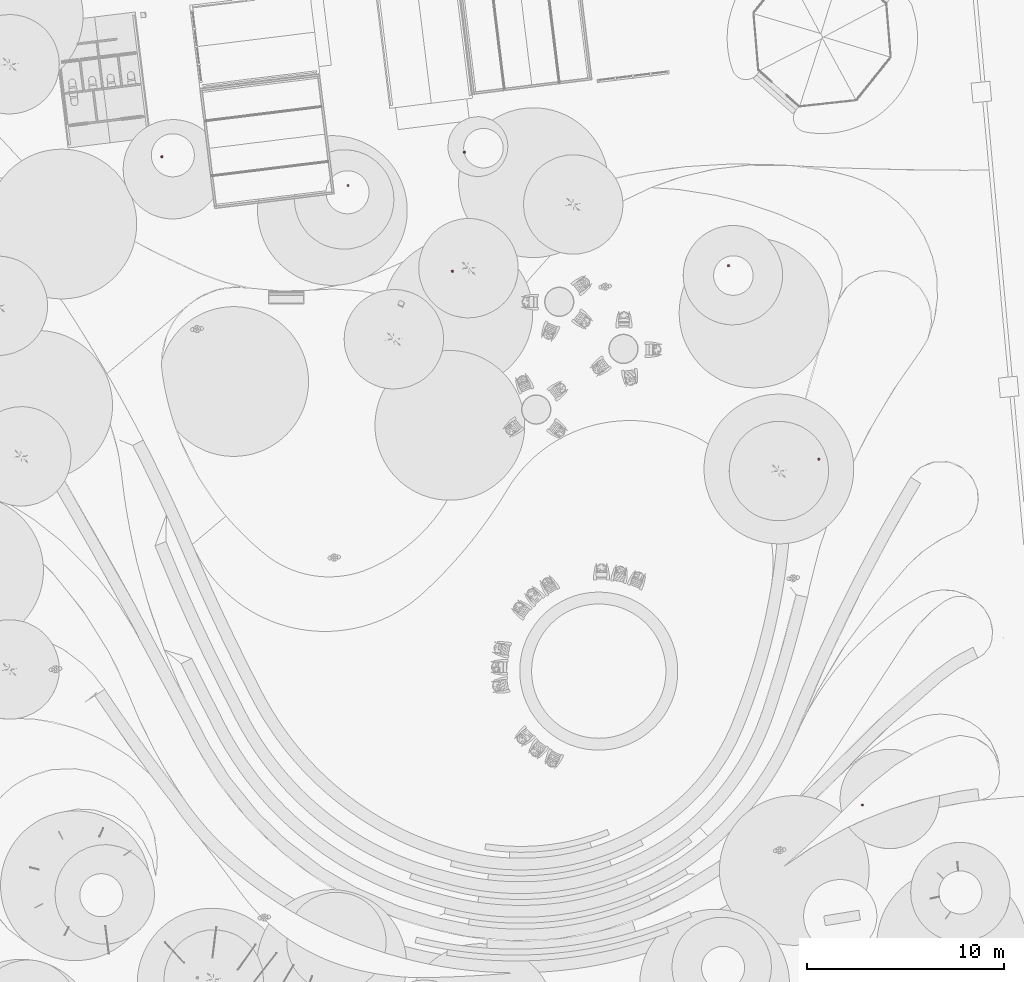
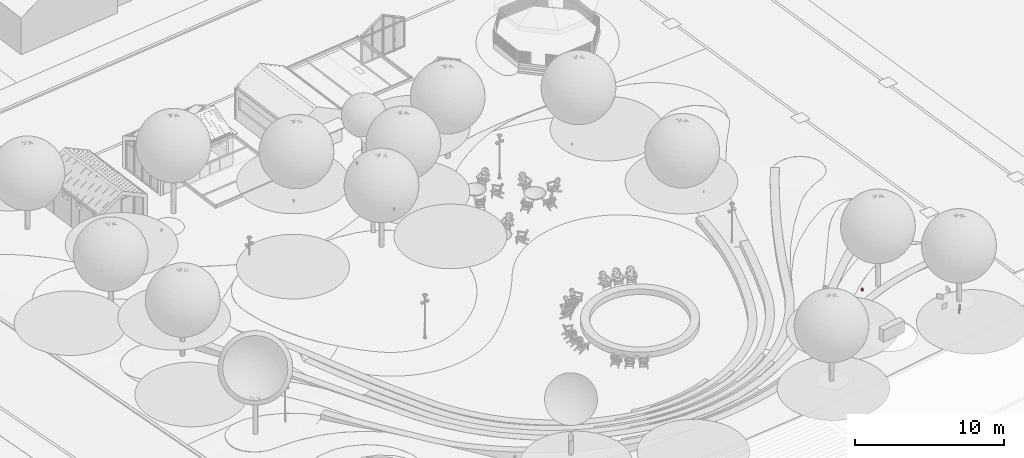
# One storey, part 61 of 75: 7 furnishings.
"""IFC2X3 building model written with IfcOpenShell, lengths in metres."""

from ifc_helpers import new_model, entity, si_unit, converted_unit, derived_unit, direction, frame, frame_2d, origin, place, context, subcontext, project, spatial, polyline, circle, outline, extrude, source, transform, mapped, material, material_list, type_object, type_shapes, element, save


model = new_model("IFC2X3")

# Units and contexts
model_context = context("Model", 3, precision=1e-05, world=origin(), true_north=direction((6.123031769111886e-17, 1.0)))
body_context = subcontext(model_context, "Body", "Model", "MODEL_VIEW")
ifc_project = project(units=[si_unit("LENGTHUNIT", "METRE"), si_unit("AREAUNIT", "SQUARE_METRE"), si_unit("VOLUMEUNIT", "CUBIC_METRE"), converted_unit("PLANEANGLEUNIT", "DEGREE", entity("IfcRatioMeasure", 0.017453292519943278), si_unit("PLANEANGLEUNIT", "RADIAN"), dimensions=[0, 0, 0, 0, 0, 0, 0]), si_unit("MASSUNIT", "GRAM", prefix="KILO"), derived_unit("MASSDENSITYUNIT", [(si_unit("MASSUNIT", "GRAM", prefix="KILO"), 1), (si_unit("LENGTHUNIT", "METRE"), -3)]), derived_unit("IONCONCENTRATIONUNIT", [(si_unit("MASSUNIT", "GRAM", prefix="KILO"), 1), (si_unit("LENGTHUNIT", "METRE"), -3)]), derived_unit("MOMENTOFINERTIAUNIT", [(si_unit("LENGTHUNIT", "METRE"), 4)]), si_unit("TIMEUNIT", "SECOND"), si_unit("FREQUENCYUNIT", "HERTZ"), si_unit("THERMODYNAMICTEMPERATUREUNIT", "DEGREE_CELSIUS"), derived_unit("THERMALTRANSMITTANCEUNIT", [(si_unit("MASSUNIT", "GRAM", prefix="KILO"), 1), (si_unit("THERMODYNAMICTEMPERATUREUNIT", "KELVIN"), -1), (si_unit("TIMEUNIT", "SECOND"), -3)]), derived_unit("THERMALCONDUCTANCEUNIT", [(si_unit("MASSUNIT", "GRAM", prefix="KILO"), 1), (si_unit("THERMODYNAMICTEMPERATUREUNIT", "KELVIN"), -1), (si_unit("TIMEUNIT", "SECOND"), -3), (si_unit("LENGTHUNIT", "METRE"), 1)]), derived_unit("VOLUMETRICFLOWRATEUNIT", [(si_unit("LENGTHUNIT", "METRE"), 3), (si_unit("TIMEUNIT", "SECOND"), -1)]), derived_unit("MASSFLOWRATEUNIT", [(si_unit("MASSUNIT", "GRAM", prefix="KILO"), 1), (si_unit("TIMEUNIT", "SECOND"), -1)]), derived_unit("ROTATIONALFREQUENCYUNIT", [(si_unit("TIMEUNIT", "SECOND"), -1)]), si_unit("ELECTRICCURRENTUNIT", "AMPERE"), si_unit("ELECTRICVOLTAGEUNIT", "VOLT"), si_unit("POWERUNIT", "WATT"), si_unit("FORCEUNIT", "NEWTON", prefix="KILO"), si_unit("ILLUMINANCEUNIT", "LUX"), si_unit("LUMINOUSFLUXUNIT", "LUMEN"), si_unit("LUMINOUSINTENSITYUNIT", "CANDELA"), derived_unit("USERDEFINED", [(si_unit("MASSUNIT", "GRAM", prefix="KILO"), -1), (si_unit("LENGTHUNIT", "METRE"), -2), (si_unit("TIMEUNIT", "SECOND"), 3), (si_unit("LUMINOUSFLUXUNIT", "LUMEN"), 1)]), derived_unit("USERDEFINED", [(si_unit("MASSUNIT", "GRAM", prefix="KILO"), 1), (si_unit("TIMEUNIT", "SECOND"), -3), (si_unit("LENGTHUNIT", "METRE"), 3), (si_unit("ELECTRICCURRENTUNIT", "AMPERE"), -2)]), derived_unit("SOUNDPOWERUNIT", [(si_unit("MASSUNIT", "GRAM", prefix="KILO"), 1), (si_unit("TIMEUNIT", "SECOND"), -3), (si_unit("LENGTHUNIT", "METRE"), 2)]), derived_unit("SOUNDPRESSUREUNIT", [(si_unit("MASSUNIT", "GRAM", prefix="KILO"), 1), (si_unit("LENGTHUNIT", "METRE"), -1), (si_unit("TIMEUNIT", "SECOND"), -2)]), derived_unit("LINEARVELOCITYUNIT", [(si_unit("LENGTHUNIT", "METRE"), 1), (si_unit("TIMEUNIT", "SECOND"), -1)]), si_unit("PRESSUREUNIT", "PASCAL"), derived_unit("USERDEFINED", [(si_unit("MASSUNIT", "GRAM", prefix="KILO"), 1), (si_unit("LENGTHUNIT", "METRE"), -2), (si_unit("TIMEUNIT", "SECOND"), -2)]), derived_unit("LINEARFORCEUNIT", [(si_unit("MASSUNIT", "GRAM", prefix="KILO"), 1), (si_unit("TIMEUNIT", "SECOND"), -2)]), derived_unit("PLANARFORCEUNIT", [(si_unit("MASSUNIT", "GRAM", prefix="KILO"), 1), (si_unit("LENGTHUNIT", "METRE"), -1), (si_unit("TIMEUNIT", "SECOND"), -2)]), derived_unit("SPECIFICHEATCAPACITYUNIT", [(si_unit("THERMODYNAMICTEMPERATUREUNIT", "KELVIN"), -1), (si_unit("LENGTHUNIT", "METRE"), 2), (si_unit("TIMEUNIT", "SECOND"), -2)]), derived_unit("HEATINGVALUEUNIT", [(si_unit("LENGTHUNIT", "METRE"), 2), (si_unit("TIMEUNIT", "SECOND"), -2)]), derived_unit("VAPORPERMEABILITYUNIT", [(si_unit("LENGTHUNIT", "METRE"), -1), (si_unit("TIMEUNIT", "SECOND"), 1)]), derived_unit("DYNAMICVISCOSITYUNIT", [(si_unit("MASSUNIT", "GRAM", prefix="KILO"), 1), (si_unit("TIMEUNIT", "SECOND"), -1), (si_unit("LENGTHUNIT", "METRE"), -1)]), derived_unit("THERMALEXPANSIONCOEFFICIENTUNIT", [(si_unit("THERMODYNAMICTEMPERATUREUNIT", "KELVIN"), -1)]), derived_unit("MODULUSOFELASTICITYUNIT", [(si_unit("MASSUNIT", "GRAM", prefix="KILO"), 1), (si_unit("LENGTHUNIT", "METRE"), -1), (si_unit("TIMEUNIT", "SECOND"), -2)]), derived_unit("ISOTHERMALMOISTURECAPACITYUNIT", [(si_unit("LENGTHUNIT", "METRE"), 3), (si_unit("MASSUNIT", "GRAM", prefix="KILO"), -1)]), derived_unit("MOISTUREDIFFUSIVITYUNIT", [(si_unit("TIMEUNIT", "SECOND"), -1), (si_unit("LENGTHUNIT", "METRE"), 2)])], contexts=[model_context])

# Site, building, storey
site_placement = place(None, origin())
site = spatial("IfcSite", under=ifc_project, at=site_placement, Name="Default", CompositionType="ELEMENT")
building_placement = place(site_placement, origin())
building = spatial("IfcBuilding", under=site, at=building_placement, Name="Projeto", CompositionType="ELEMENT")
storey_placement = place(building_placement, origin())
storey = spatial("IfcBuildingStorey", under=building, at=storey_placement, Name="Nível 1", CompositionType="ELEMENT", Elevation=0.0)

# Furnishings
ifc_material_1 = material(Name="Aço")
ifc_material_2 = material(Name="<Unnamed>")
ifc_material_list = material_list([ifc_material_1, ifc_material_2])
furniture_type = type_object("IfcFurnitureType", Name="Iluminação de chão:Iluminação de chão", material=ifc_material_list)
shared_shape = source(origin(), body_context, "Body", "SweptSolid", [
    extrude(outline(polyline([(-0.026756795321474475, -0.05273292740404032), (0.025445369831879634, -0.05273292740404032), (0.05904645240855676, 0.0054658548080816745), (-0.010235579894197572, 0.04546585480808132), (-0.02074265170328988, 0.027267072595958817), (-0.02675679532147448, 0.027267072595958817), (-0.026756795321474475, -0.05273292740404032)])), frame((0.014277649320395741, -0.05750000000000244, 0.026756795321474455), z_axis=(0.0, 1.0, 0.0), x_axis=(0.0, 0.0, 1.0)), (0.0, 0.0, 1.0), 0.11499999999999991),
    extrude(circle(Radius=0.059999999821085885, at=frame_2d((1.4775496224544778e-22, -9.693267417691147e-17), x_axis=(1.0, 0.0))), frame((0.0, 0.0, -0.10000000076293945)), (0.0, 0.0, 1.0), 0.10000000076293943),
])
type_shapes(furniture_type, [shared_shape])
for number, where, z_axis, x_axis in (
    (1, (19.882492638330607, 10.196177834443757, -1.7999999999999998), (0.0, 0.0, 1.0), (0.29827048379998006, -0.9544813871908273, 0.0)),
    (2, (15.306910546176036, 20.00026094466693, -2.2499999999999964), (0.0, 0.0, 1.0), (0.29827048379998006, -0.9544813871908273, 0.0)),
):
    element("IfcFurnishingElement", number, at=place(storey_placement, frame(where, z_axis=z_axis, x_axis=x_axis)), inside=storey, type_object=furniture_type, material=ifc_material_list, Name="Iluminação de chão:Iluminação de chão", ObjectType="Iluminação de chão:Iluminação de chão", context=body_context, shape_type="MappedRepresentation", body=[
        mapped(shared_shape, transform((0.0, 0.0, 0.0), scale=1.0)),
    ])
for number, where in (
    (3, (1.318577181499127, 19.717551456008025, -2.502232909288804)),
    (4, (1.9154444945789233, 25.742480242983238, -2.600000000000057)),
    (5, (-3.968992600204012, 24.05860421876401, -2.600000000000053)),
    (6, (-13.397025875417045, 25.511652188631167, -2.600000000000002)),
    (7, (22.079986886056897, -7.317362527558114, 0.0)),
):
    element("IfcFurnishingElement", number, at=place(storey_placement, frame(where)), inside=storey, type_object=furniture_type, material=ifc_material_list, Name="Iluminação de chão:Iluminação de chão", ObjectType="Iluminação de chão:Iluminação de chão", context=body_context, shape_type="MappedRepresentation", body=[
        mapped(shared_shape, transform((0.0, 0.0, 0.0), scale=1.0)),
    ])

save(model, "model.ifc")
